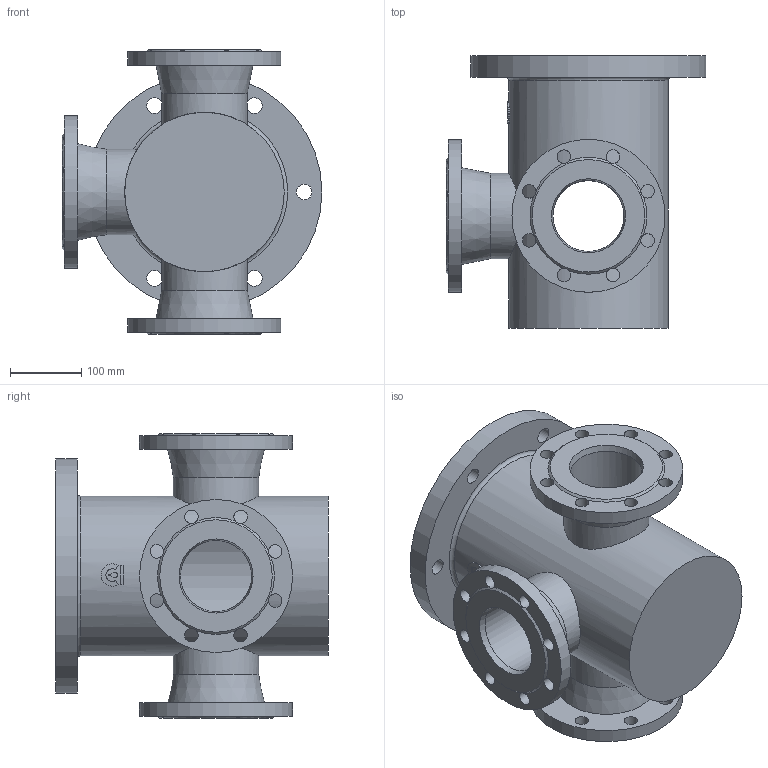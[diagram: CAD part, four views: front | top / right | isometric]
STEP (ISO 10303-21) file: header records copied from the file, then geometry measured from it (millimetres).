
FILE_DESCRIPTION(('STEP AP203'), '1');
FILE_NAME('Ïîäñòàâêà ïîæàðíàÿ ôëàíöåâàÿ PPTF DN100', '', ('UNSPECIFIED'), ('UNSPECIFIED'), 'ASCON STEP Converter 1.6', 'ASCON Math Kernel', '');
FILE_SCHEMA(('CONFIG_CONTROL_DESIGN'));
Length unit declared in the file: millimetre
Bounding box: 365 x 382.5 x 400 mm (x, y, z)
Volume: 7003448.4 mm3; surface area: 1032422.2 mm2
Topology: 1 solids, 1 shells, 86 faces, 276 edges, 181 vertices
Faces by surface type: cylinder 54, plane 21, cone 9, torus 2
Full cylindrical faces by diameter (mm): 19 x24, 22 x6, 100 x3, 120 x3, 175 x1, 200 x1, 215 x3, 224 x1, 232 x1, 330 x1
Entity records: 7531 total; most frequent: CARTESIAN_POINT 4431, DIRECTION 492, ORIENTED_EDGE 438, AXIS2_PLACEMENT_3D 237, EDGE_CURVE 219, EDGE_LOOP 198, VERTEX_POINT 181, CIRCLE 150
